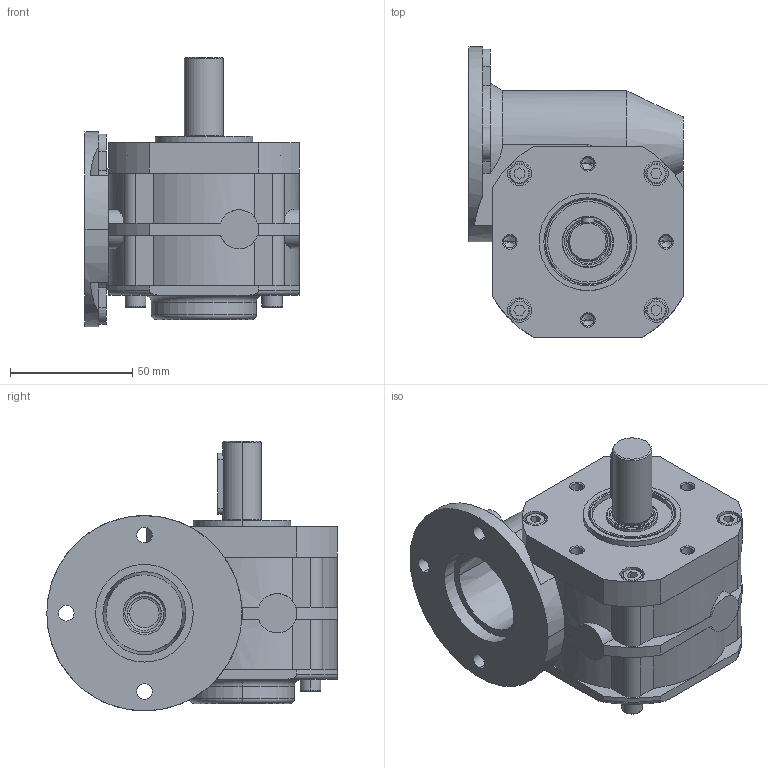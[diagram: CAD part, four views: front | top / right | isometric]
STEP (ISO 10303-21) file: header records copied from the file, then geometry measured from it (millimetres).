
FILE_DESCRIPTION (( 'STEP AP214' ), '1' );
FILE_NAME ('SC401.STEP', '2010-10-12T11:48:55', ( ' ' ), ( '' ), 'SwSTEP 2.0', 'SolidWorks 2010', '' );
FILE_SCHEMA (( 'AUTOMOTIVE_DESIGN' ));
Length unit declared in the file: millimetre
Products named in the file (1): SC401
Bounding box: 87.7 x 119 x 110.5 mm (x, y, z)
Volume: 397087.3 mm3; surface area: 57292 mm2
Topology: 1 solids, 1 shells, 331 faces, 807 edges, 504 vertices
Faces by surface type: plane 150, cylinder 115, cone 34, torus 32
Entity records: 11103 total; most frequent: CARTESIAN_POINT 2139, DIRECTION 1761, ORIENTED_EDGE 1598, EDGE_CURVE 799, AXIS2_PLACEMENT_3D 668, VERTEX_POINT 504, VECTOR 425, LINE 425
